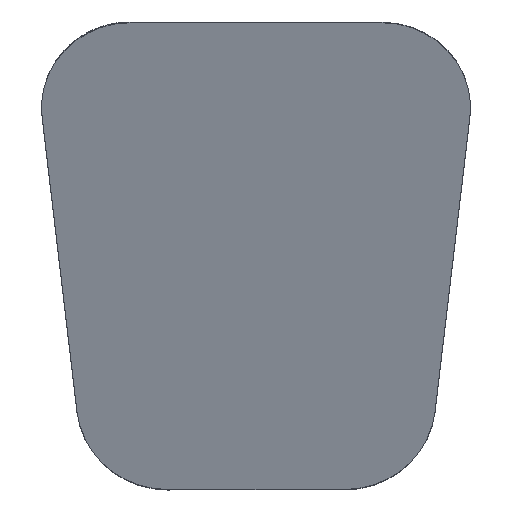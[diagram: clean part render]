
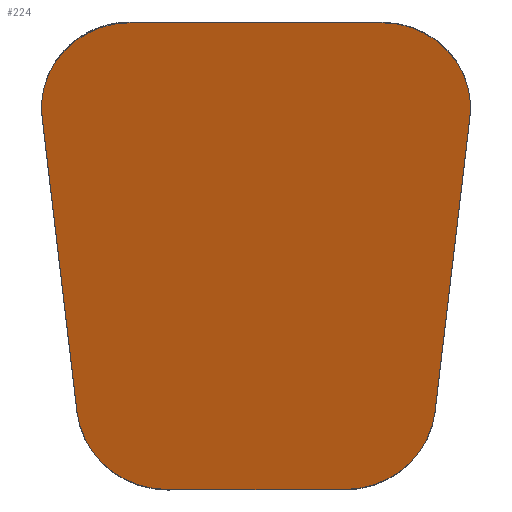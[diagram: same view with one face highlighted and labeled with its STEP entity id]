
A CAD part, top view. The second image highlights one B-rep face of the part: STEP entity #224.
In plain terms, the highlighted planar face has unit normal (0, -0.286, 0.958).
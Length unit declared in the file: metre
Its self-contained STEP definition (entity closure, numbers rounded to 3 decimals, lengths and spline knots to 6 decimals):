
#224 = ADVANCED_FACE( '', ( #257 ), #258, .F. );
#257 = FACE_OUTER_BOUND( '', #346, .T. );
#258 = PLANE( '', #347 );
#346 = EDGE_LOOP( '', ( #2266, #2267, #2268, #2269, #2270, #2271, #2272, #2273 ) );
#347 = AXIS2_PLACEMENT_3D( '', #2274, #2275, #2276 );
#2266 = ORIENTED_EDGE( '', *, *, #2465, .F. );
#2267 = ORIENTED_EDGE( '', *, *, #2466, .F. );
#2268 = ORIENTED_EDGE( '', *, *, #2467, .F. );
#2269 = ORIENTED_EDGE( '', *, *, #2468, .F. );
#2270 = ORIENTED_EDGE( '', *, *, #2469, .F. );
#2271 = ORIENTED_EDGE( '', *, *, #2470, .F. );
#2272 = ORIENTED_EDGE( '', *, *, #2471, .F. );
#2273 = ORIENTED_EDGE( '', *, *, #2463, .F. );
#2274 = CARTESIAN_POINT( '', ( 0.0505, -0.085259, 0.277967 ) );
#2275 = DIRECTION( '', ( 0., 0.286, -0.958 ) );
#2276 = DIRECTION( '', ( 0., 0.958, 0.286 ) );
#2463 = EDGE_CURVE( '', #2520, #2522, #2523, .T. );
#2465 = EDGE_CURVE( '', #2525, #2520, #2526, .T. );
#2466 = EDGE_CURVE( '', #2527, #2525, #2528, .T. );
#2467 = EDGE_CURVE( '', #2529, #2527, #2530, .T. );
#2468 = EDGE_CURVE( '', #2531, #2529, #2532, .T. );
#2469 = EDGE_CURVE( '', #2533, #2531, #2534, .T. );
#2470 = EDGE_CURVE( '', #2535, #2533, #2536, .T. );
#2471 = EDGE_CURVE( '', #2522, #2535, #2537, .T. );
#2520 = VERTEX_POINT( '', #2624 );
#2522 = VERTEX_POINT( '', #2627 );
#2523 = CIRCLE( '', #2628, 0.052321 );
#2525 = VERTEX_POINT( '', #2631 );
#2526 = LINE( '', #2632, #2633 );
#2527 = VERTEX_POINT( '', #2634 );
#2528 = CIRCLE( '', #2635, 0.050703 );
#2529 = VERTEX_POINT( '', #2636 );
#2530 = LINE( '', #2637, #2638 );
#2531 = VERTEX_POINT( '', #2639 );
#2532 = CIRCLE( '', #2640, 0.050703 );
#2533 = VERTEX_POINT( '', #2641 );
#2534 = LINE( '', #2642, #2643 );
#2535 = VERTEX_POINT( '', #2644 );
#2536 = CIRCLE( '', #2645, 0.052321 );
#2537 = LINE( '', #2646, #2647 );
#2624 = CARTESIAN_POINT( '', ( 0.102487, -0.090915, 0.27628 ) );
#2627 = CARTESIAN_POINT( '', ( 0.0505, -0.135399, 0.263018 ) );
#2628 = AXIS2_PLACEMENT_3D( '', #3359, #3360, #3361 );
#2631 = CARTESIAN_POINT( '', ( 0.122487, 0.0779, 0.326611 ) );
#2632 = CARTESIAN_POINT( '', ( 0.102487, -0.090915, 0.27628 ) );
#2633 = VECTOR( '', #3363, 1. );
#2634 = CARTESIAN_POINT( '', ( 0.072108, 0.131971, 0.342732 ) );
#2635 = AXIS2_PLACEMENT_3D( '', #3364, #3365, #3366 );
#2636 = CARTESIAN_POINT( '', ( -0.072108, 0.131971, 0.342732 ) );
#2637 = CARTESIAN_POINT( '', ( 0.072108, 0.131971, 0.342732 ) );
#2638 = VECTOR( '', #3367, 1. );
#2639 = CARTESIAN_POINT( '', ( -0.122487, 0.0779, 0.326611 ) );
#2640 = AXIS2_PLACEMENT_3D( '', #3368, #3369, #3370 );
#2641 = CARTESIAN_POINT( '', ( -0.102487, -0.090915, 0.27628 ) );
#2642 = CARTESIAN_POINT( '', ( -0.122487, 0.0779, 0.326611 ) );
#2643 = VECTOR( '', #3371, 1. );
#2644 = CARTESIAN_POINT( '', ( -0.0505, -0.135399, 0.263018 ) );
#2645 = AXIS2_PLACEMENT_3D( '', #3372, #3373, #3374 );
#2646 = CARTESIAN_POINT( '', ( -0.0505, -0.135399, 0.263018 ) );
#2647 = VECTOR( '', #3375, 1. );
#3359 = CARTESIAN_POINT( '', ( 0.0505, -0.085259, 0.277967 ) );
#3360 = DIRECTION( '', ( 0., 0.286, -0.958 ) );
#3361 = DIRECTION( '', ( -1., 0., 0. ) );
#3363 = DIRECTION( '', ( -0.113, -0.952, -0.284 ) );
#3364 = CARTESIAN_POINT( '', ( 0.072108, 0.083382, 0.328246 ) );
#3365 = DIRECTION( '', ( 0., 0.286, -0.958 ) );
#3366 = DIRECTION( '', ( -1., 0., 0. ) );
#3367 = DIRECTION( '', ( 1., 0., 0. ) );
#3368 = CARTESIAN_POINT( '', ( -0.072108, 0.083382, 0.328246 ) );
#3369 = DIRECTION( '', ( 0., 0.286, -0.958 ) );
#3370 = DIRECTION( '', ( 1., 0., 0. ) );
#3371 = DIRECTION( '', ( -0.113, 0.952, 0.284 ) );
#3372 = CARTESIAN_POINT( '', ( -0.0505, -0.085259, 0.277967 ) );
#3373 = DIRECTION( '', ( 0., 0.286, -0.958 ) );
#3374 = DIRECTION( '', ( -1., 0., 0. ) );
#3375 = DIRECTION( '', ( -1., 0., 0. ) );
